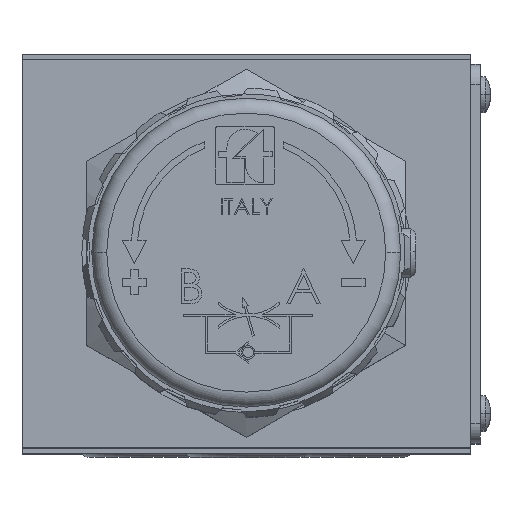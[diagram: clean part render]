
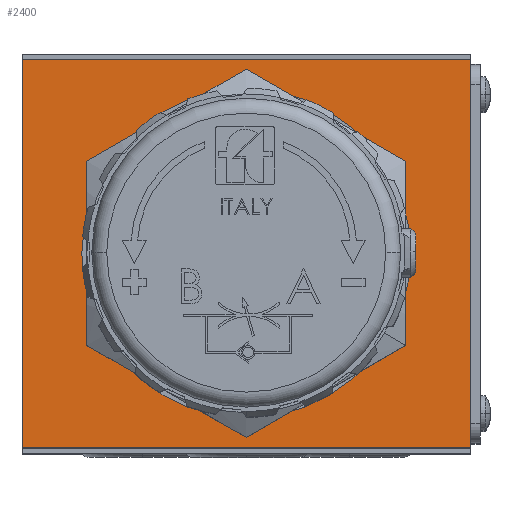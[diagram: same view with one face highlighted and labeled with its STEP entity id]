
A CAD part, top view. The second image highlights one B-rep face of the part: STEP entity #2400.
In plain terms, the highlighted planar face has unit normal (0, 0, 1).
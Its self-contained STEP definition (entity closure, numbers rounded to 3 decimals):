
#2400 = ADVANCED_FACE ( 'NONE', ( #10298, #36175 ), #65914, .T. ) ;
#6706 = CARTESIAN_POINT ( 'NONE',  ( 22.5, 19.5, 47.5 ) ) ;
#9484 = VERTEX_POINT ( 'NONE', #54725 ) ;
#10298 = FACE_BOUND ( 'NONE', #29540, .T. ) ;
#11268 = CARTESIAN_POINT ( 'NONE',  ( 22.5, -19.5, 47.5 ) ) ;
#13133 = CARTESIAN_POINT ( 'NONE',  ( 22.5, 20., 47.5 ) ) ;
#13663 = ORIENTED_EDGE ( 'NONE', *, *, #77207, .T. ) ;
#14934 = ORIENTED_EDGE ( 'NONE', *, *, #106002, .F. ) ;
#14944 = CARTESIAN_POINT ( 'NONE',  ( -22.5, 20., 47.5 ) ) ;
#16079 = EDGE_LOOP ( 'NONE', ( #40787, #13663, #40962, #100346 ) ) ;
#20959 = CARTESIAN_POINT ( 'NONE',  ( -22.5, -19.5, 47.5 ) ) ;
#22411 = CARTESIAN_POINT ( 'NONE',  ( -22.5, 19.5, 47.5 ) ) ;
#24101 = CARTESIAN_POINT ( 'NONE',  ( 0., 0., 47.5 ) ) ;
#24553 = CARTESIAN_POINT ( 'NONE',  ( 0., 0., 47.5 ) ) ;
#25048 = EDGE_CURVE ( 'NONE', #58490, #50811, #71377, .T. ) ;
#29540 = EDGE_LOOP ( 'NONE', ( #14934, #107928 ) ) ;
#30200 = LINE ( 'NONE', #20959, #97180 ) ;
#31153 = DIRECTION ( 'NONE',  ( 0., 0., 1. ) ) ;
#32846 = DIRECTION ( 'NONE',  ( 1., 0., 0. ) ) ;
#33325 = DIRECTION ( 'NONE',  ( 1., 0., 0. ) ) ;
#36175 = FACE_OUTER_BOUND ( 'NONE', #16079, .T. ) ;
#36553 = AXIS2_PLACEMENT_3D ( 'NONE', #83456, #31153, #92235 ) ;
#38517 = LINE ( 'NONE', #13133, #105505 ) ;
#39209 = VERTEX_POINT ( 'NONE', #6706 ) ;
#40787 = ORIENTED_EDGE ( 'NONE', *, *, #104181, .F. ) ;
#40962 = ORIENTED_EDGE ( 'NONE', *, *, #62040, .F. ) ;
#41226 = CARTESIAN_POINT ( 'NONE',  ( -22.5, 19.5, 47.5 ) ) ;
#44294 = VECTOR ( 'NONE', #93481, 1000. ) ;
#48107 = VECTOR ( 'NONE', #102350, 1000. ) ;
#50811 = VERTEX_POINT ( 'NONE', #111797 ) ;
#54725 = CARTESIAN_POINT ( 'NONE',  ( -16.5, 0., 47.5 ) ) ;
#58490 = VERTEX_POINT ( 'NONE', #22411 ) ;
#62040 = EDGE_CURVE ( 'NONE', #58490, #39209, #87990, .T. ) ;
#65914 = PLANE ( 'NONE',  #36553 ) ;
#66318 = CIRCLE ( 'NONE', #91407, 16.5 ) ;
#71377 = LINE ( 'NONE', #14944, #48107 ) ;
#77207 = EDGE_CURVE ( 'NONE', #96519, #39209, #38517, .T. ) ;
#81969 = DIRECTION ( 'NONE',  ( -1., 0., 0. ) ) ;
#82964 = DIRECTION ( 'NONE',  ( 0., 1., 0. ) ) ;
#83456 = CARTESIAN_POINT ( 'NONE',  ( -22.5, -20., 47.5 ) ) ;
#85185 = DIRECTION ( 'NONE',  ( 0., 0., 1. ) ) ;
#85671 = DIRECTION ( 'NONE',  ( 0., 0., 1. ) ) ;
#87990 = LINE ( 'NONE', #41226, #44294 ) ;
#90581 = AXIS2_PLACEMENT_3D ( 'NONE', #24101, #85185, #32846 ) ;
#91407 = AXIS2_PLACEMENT_3D ( 'NONE', #24553, #85671, #33325 ) ;
#92235 = DIRECTION ( 'NONE',  ( 1., 0., 0. ) ) ;
#93481 = DIRECTION ( 'NONE',  ( 1., 0., 0. ) ) ;
#96519 = VERTEX_POINT ( 'NONE', #11268 ) ;
#96757 = VERTEX_POINT ( 'NONE', #103176 ) ;
#97180 = VECTOR ( 'NONE', #81969, 1000. ) ;
#100346 = ORIENTED_EDGE ( 'NONE', *, *, #25048, .T. ) ;
#100820 = CIRCLE ( 'NONE', #90581, 16.5 ) ;
#102350 = DIRECTION ( 'NONE',  ( 0., -1., 0. ) ) ;
#103176 = CARTESIAN_POINT ( 'NONE',  ( 16.5, 0., 47.5 ) ) ;
#104181 = EDGE_CURVE ( 'NONE', #96519, #50811, #30200, .T. ) ;
#105505 = VECTOR ( 'NONE', #82964, 1000. ) ;
#106002 = EDGE_CURVE ( 'NONE', #96757, #9484, #100820, .T. ) ;
#106992 = EDGE_CURVE ( 'NONE', #9484, #96757, #66318, .T. ) ;
#107928 = ORIENTED_EDGE ( 'NONE', *, *, #106992, .F. ) ;
#111797 = CARTESIAN_POINT ( 'NONE',  ( -22.5, -19.5, 47.5 ) ) ;
